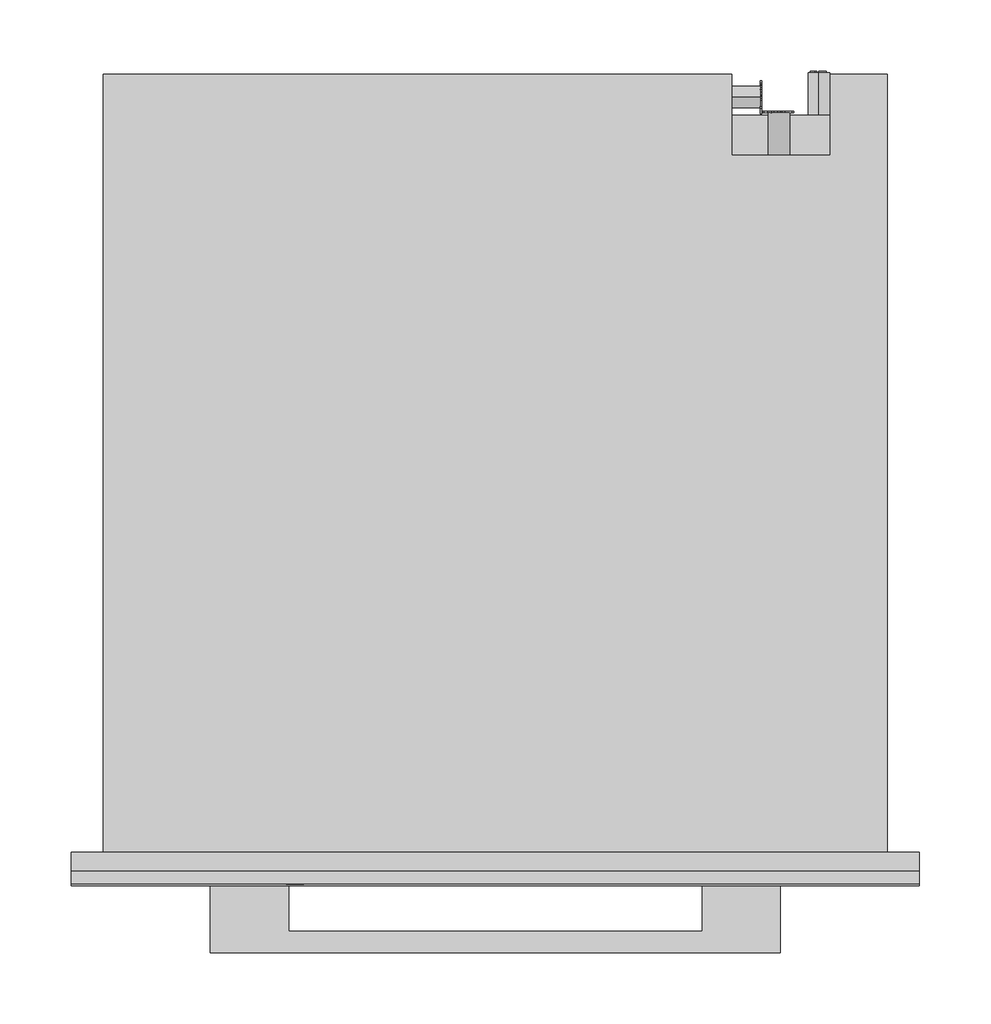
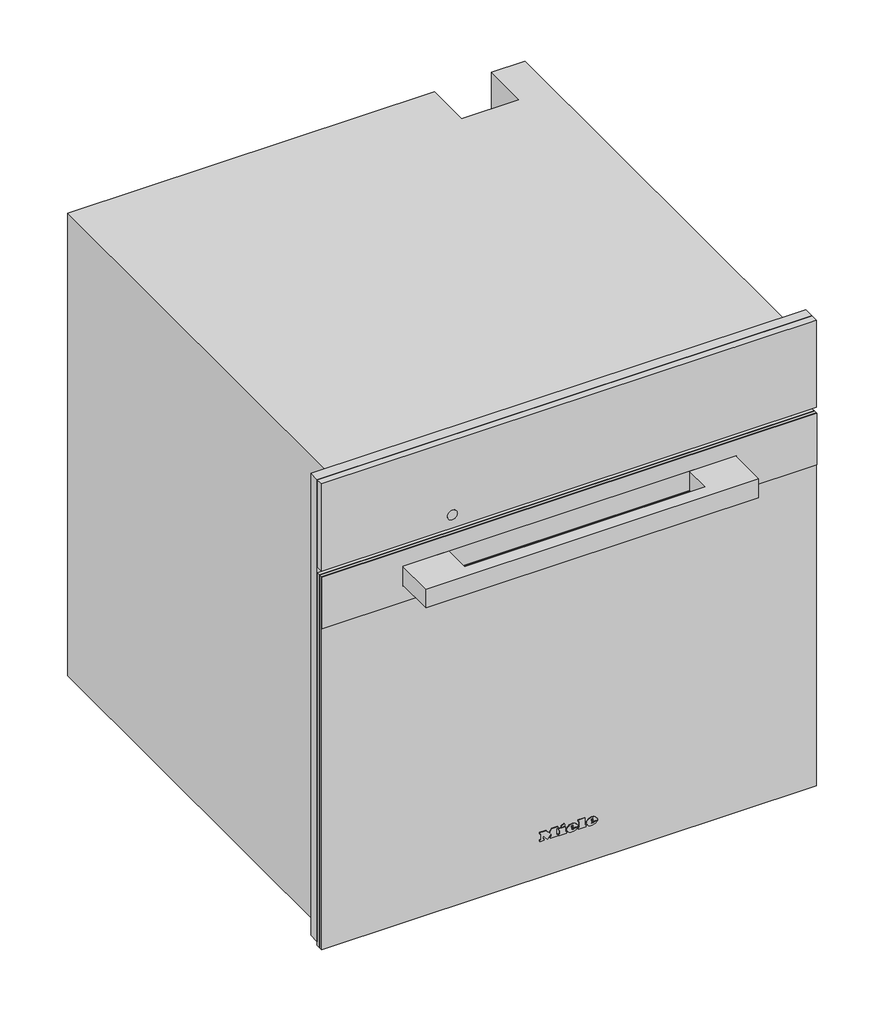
# Not in any storey: 1 proxy.
"""IFC4 building model written with IfcOpenShell, lengths in millimetres."""

import ifcopenshell
import ifcopenshell.guid

model = None  # the IFC model being written
_history = None  # IfcOwnerHistory: only IFC2X3 demands one
_inside = {}  # id of a spatial element -> (the spatial element, [elements in it])
_under = {}  # id of a project, library or spatial element -> (it, [spatial elements below it])
_declared = {}  # id of a project -> (the project, [libraries it declares])
_typed = {}  # id of a type object -> (the type object, [elements of that type])
_made_of = {}  # id of a material, layer set ... -> (it, [elements and type objects made of it])


def new_model(schema):
    """Start an empty IFC model of exactly this schema.

    Asked for "IFC4X3", IfcOpenShell would pick the latest addendum, in which some entities
    have other attributes; the version numbers below select the first issue.
    IFC2X3 requires an IfcOwnerHistory on every rooted entity: one is made here for all.
    """
    global model, _history
    if schema == "IFC4X3":
        model = ifcopenshell.file(schema_version=(4, 3, 0, 0))
    else:
        model = ifcopenshell.file(schema=schema)
    _inside.clear()
    _under.clear()
    _declared.clear()
    _typed.clear()
    _made_of.clear()
    _history = None
    if model.schema == "IFC2X3":
        org = make("IfcOrganization", Name="unknown")
        user = make(
            "IfcPersonAndOrganization",
            ThePerson=make("IfcPerson", FamilyName="unknown"),
            TheOrganization=org,
        )
        app = make(
            "IfcApplication",
            ApplicationDeveloper=org,
            Version="unknown",
            ApplicationFullName="unknown",
            ApplicationIdentifier="unknown",
        )
        _history = make(
            "IfcOwnerHistory",
            OwningUser=user,
            OwningApplication=app,
            ChangeAction="ADDED",
            CreationDate=0,
        )
    return model


def make(cls, **values):
    """One entity of the class cls with the attributes given. An attribute that is None is left unset."""
    return model.create_entity(
        cls, **{name: value for name, value in values.items() if value is not None}
    )


def rooted(cls, **values):
    """An entity with a GlobalId (a new one), such as an element, a storey or a relation."""
    return make(cls, GlobalId=ifcopenshell.guid.new(), OwnerHistory=_history, **values)


def si_unit(unit_type, name, prefix=None):
    """IfcSIUnit, for example si_unit("LENGTHUNIT", "METRE", prefix="MILLI")."""
    return make("IfcSIUnit", UnitType=unit_type, Prefix=prefix, Name=name)


def assignment(units):
    """IfcUnitAssignment: the units of a project."""
    return None if units is None else make("IfcUnitAssignment", Units=units)


def point(xyz):
    """IfcCartesianPoint."""
    return None if xyz is None else make("IfcCartesianPoint", Coordinates=xyz)


def direction(xyz):
    """IfcDirection."""
    return None if xyz is None else make("IfcDirection", DirectionRatios=xyz)


def frame(location, z_axis=None, x_axis=None):
    """IfcAxis2Placement3D, a coordinate frame: its origin and axes. An axis left out is left unset."""
    return make(
        "IfcAxis2Placement3D",
        Location=point(location),
        Axis=direction(z_axis),
        RefDirection=direction(x_axis),
    )


def frame_2d(location, x_axis=None):
    """IfcAxis2Placement2D, a coordinate frame in the plane: its origin and x axis."""
    return make(
        "IfcAxis2Placement2D", Location=point(location), RefDirection=direction(x_axis)
    )


def origin():
    """The frame at (0, 0, 0) with its axes left unset."""
    return frame((0.0, 0.0, 0.0))


def place(relative_to, where):
    """IfcLocalPlacement: puts the frame where relative to a parent placement (None: the world)."""
    return make(
        "IfcLocalPlacement", PlacementRelTo=relative_to, RelativePlacement=where
    )


def context(
    kind, dimensions, precision=None, world=None, true_north=None, identifier=None
):
    """IfcGeometricRepresentationContext, for example the 3D "Model" context."""
    return make(
        "IfcGeometricRepresentationContext",
        ContextIdentifier=identifier,
        ContextType=kind,
        CoordinateSpaceDimension=dimensions,
        Precision=precision,
        WorldCoordinateSystem=world,
        TrueNorth=true_north,
    )


def project(units=None, contexts=None):
    """IfcProject with its units and contexts."""
    return rooted(
        "IfcProject",
        Name="project",
        RepresentationContexts=contexts,
        UnitsInContext=assignment(units),
    )


def spatial(cls, under=None, at=None, **own):
    """A site, building, storey or space (cls), placed at a placement, below another one or the project."""
    s = rooted(cls, ObjectPlacement=at, **own)
    if under is not None:
        _under.setdefault(under.id(), (under, []))[1].append(s)
    return s


def polyline(points):
    """IfcPolyline through the points."""
    return make("IfcPolyline", Points=[point(p) for p in points])


def circle_curve(where, radius):
    """IfcCircle in the frame where."""
    return make("IfcCircle", Position=where, Radius=radius)


def ellipse_curve(where, semi_axis1, semi_axis2):
    """IfcEllipse in the frame where."""
    return make(
        "IfcEllipse", Position=where, SemiAxis1=semi_axis1, SemiAxis2=semi_axis2
    )


def trimmed(basis, trim1, trim2, sense, master):
    """IfcTrimmedCurve: the piece of a basis curve between two trims."""
    return make(
        "IfcTrimmedCurve",
        BasisCurve=basis,
        Trim1=trim1,
        Trim2=trim2,
        SenseAgreement=sense,
        MasterRepresentation=master,
    )


def segment(curve, same_sense, transition):
    """IfcCompositeCurveSegment."""
    return make(
        "IfcCompositeCurveSegment",
        Transition=transition,
        SameSense=same_sense,
        ParentCurve=curve,
    )


def composite_curve(segments, self_intersect=None):
    """IfcCompositeCurve: segments joined end to end."""
    return make("IfcCompositeCurve", Segments=segments, SelfIntersect=self_intersect)


def outline(outer, holes=None, kind="AREA"):
    """IfcArbitraryClosedProfileDef: a profile drawn as a closed curve; with holes, ...WithVoids."""
    if holes is None:
        return make("IfcArbitraryClosedProfileDef", ProfileType=kind, OuterCurve=outer)
    return make(
        "IfcArbitraryProfileDefWithVoids",
        ProfileType=kind,
        OuterCurve=outer,
        InnerCurves=holes,
    )


def extrude(swept, where, along, depth):
    """IfcExtrudedAreaSolid: the profile swept, set in the frame where, extruded along a direction by depth."""
    return make(
        "IfcExtrudedAreaSolid",
        SweptArea=swept,
        Position=where,
        ExtrudedDirection=direction(along),
        Depth=depth,
    )


def faces_of(points, faces, orient=None, outer=None):
    """IfcFace entities. A face is a list of loops; a loop is a list of indices into points, from 0.

    orient and outer hold one flag for each loop. By default every Orientation is true, the
    first loop of a face is its IfcFaceOuterBound and the others are IfcFaceBound.
    """
    made = []
    for i, loops in enumerate(faces):
        bounds = []
        for j, loop in enumerate(loops):
            is_outer = j == 0 if outer is None else outer[i][j]
            bounds.append(
                make(
                    "IfcFaceOuterBound" if is_outer else "IfcFaceBound",
                    Bound=make("IfcPolyLoop", Polygon=[points[k] for k in loop]),
                    Orientation=True if orient is None else orient[i][j],
                )
            )
        made.append(make("IfcFace", Bounds=bounds))
    return made


def faceted_brep(points, faces, orient=None, outer=None, voids=None):
    """IfcFacetedBrep: a solid bounded by flat faces; with voids (closed shells), ...WithVoids."""
    shared = [point(p) for p in points]
    hull = make("IfcClosedShell", CfsFaces=faces_of(shared, faces, orient, outer))
    if voids is None:
        return make("IfcFacetedBrep", Outer=hull)
    return make(
        "IfcFacetedBrepWithVoids",
        Outer=hull,
        Voids=[
            make(cls, CfsFaces=faces_of(shared, fs, o, b)) for cls, fs, o, b in voids
        ],
    )


def shape(context_of_items, identifier, shape_type, items):
    """IfcShapeRepresentation: the items that make up one representation, for example the "Body"."""
    return make(
        "IfcShapeRepresentation",
        ContextOfItems=context_of_items,
        RepresentationIdentifier=identifier,
        RepresentationType=shape_type,
        Items=items,
    )


def source(mapping_origin, context_of_items, identifier, shape_type, items):
    """IfcRepresentationMap: a shape defined once, which mapped items show again and again."""
    return make(
        "IfcRepresentationMap",
        MappingOrigin=mapping_origin,
        MappedRepresentation=shape(context_of_items, identifier, shape_type, items),
    )


def transform(
    local_origin,
    x_axis=None,
    y_axis=None,
    z_axis=None,
    scale=None,
    scale2=None,
    scale3=None,
    uniform=True,
):
    """IfcCartesianTransformationOperator3D, or its non-uniform kind. x_axis, y_axis, z_axis: its Axis1, 2, 3."""
    if uniform:
        return make(
            "IfcCartesianTransformationOperator3D",
            Axis1=direction(x_axis),
            Axis2=direction(y_axis),
            LocalOrigin=point(local_origin),
            Scale=scale,
            Axis3=direction(z_axis),
        )
    return make(
        "IfcCartesianTransformationOperator3DnonUniform",
        Axis1=direction(x_axis),
        Axis2=direction(y_axis),
        LocalOrigin=point(local_origin),
        Scale=scale,
        Axis3=direction(z_axis),
        Scale2=scale2,
        Scale3=scale3,
    )


def mapped(mapping_source, mapping_target):
    """IfcMappedItem: shows the shape of a source again, moved by a transform."""
    return make(
        "IfcMappedItem", MappingSource=mapping_source, MappingTarget=mapping_target
    )


def made_of(thing, what):
    """Note that an element or type object is made of a material, layer set ...; save() writes the relation."""
    if what is not None:
        _made_of.setdefault(what.id(), (what, []))[1].append(thing)
    return thing


def element(
    cls,
    number,
    at=None,
    inside=None,
    cuts=None,
    type_object=None,
    material=None,
    context=None,
    identifier="Body",
    shape_type=None,
    held_by="IfcProductDefinitionShape",
    body=None,
    shapes=None,
    **own,
):
    """One element of the class cls, such as IfcWall. Its Tag is "e" and its number.

    at: its placement. inside: the storey or other place that contains it. cuts: it is an
    opening in that element (IfcRelVoidsElement). A single representation is given by context,
    identifier, shape_type and body (its items); several are given by shapes. held_by: the class
    of the entity that holds the representations. save() writes the other relations.
    """
    e = rooted(cls, Tag="e%d" % number, ObjectPlacement=at, **own)
    if body is not None:
        shapes = [shape(context, identifier, shape_type, body)]
    if shapes is not None:
        e.Representation = make(held_by, Representations=shapes)
    if inside is not None:
        _inside.setdefault(inside.id(), (inside, []))[1].append(e)
    if cuts is not None:
        rooted(
            "IfcRelVoidsElement", RelatingBuildingElement=cuts, RelatedOpeningElement=e
        )
    if type_object is not None:
        _typed.setdefault(type_object.id(), (type_object, []))[1].append(e)
    return made_of(e, material)


def aggregate(whole, parts):
    """IfcRelAggregates: a whole, such as a stair, and the parts it consists of."""
    return rooted("IfcRelAggregates", RelatingObject=whole, RelatedObjects=parts)


def save(model, path):
    """Write the relations noted so far, then the file.

    IfcRelAggregates (storeys below a building ...), IfcRelContainedInSpatialStructure (elements
    in a storey), IfcRelDefinesByType, IfcRelAssociatesMaterial and IfcRelDeclares: one each for
    every whole, place, type object, material and project.
    """
    for whole, parts in _under.values():
        aggregate(whole, parts)
    for where, things in _inside.values():
        rooted(
            "IfcRelContainedInSpatialStructure",
            RelatedElements=things,
            RelatingStructure=where,
        )
    for kind, things in _typed.values():
        rooted("IfcRelDefinesByType", RelatedObjects=things, RelatingType=kind)
    for what, things in _made_of.values():
        rooted("IfcRelAssociatesMaterial", RelatedObjects=things, RelatingMaterial=what)
    for by, libraries in _declared.values():
        rooted("IfcRelDeclares", RelatingContext=by, RelatedDefinitions=libraries)
    model.write(path)


def plane_surface(at):
    """IfcPlane: the flat surface through the origin of the frame at, square to its z axis."""
    return make("IfcPlane", Position=at)


def cylinder_surface(at, radius):
    """IfcCylindricalSurface: all points at the distance radius from the z axis of the frame at."""
    return make("IfcCylindricalSurface", Position=at, Radius=radius)


def revolved_surface(curve, axis_point, axis_direction):
    """IfcSurfaceOfRevolution: the curve turned about the line through axis_point along axis_direction."""
    return make(
        "IfcSurfaceOfRevolution",
        SweptCurve=make("IfcArbitraryOpenProfileDef", ProfileType="CURVE", Curve=curve),
        AxisPosition=make("IfcAxis1Placement", Location=point(axis_point), Axis=direction(axis_direction)),
    )


def extruded_surface(curve, direction_of_extrusion, depth):
    """IfcSurfaceOfLinearExtrusion: the curve pushed along a direction by depth."""
    return make(
        "IfcSurfaceOfLinearExtrusion",
        SweptCurve=make("IfcArbitraryOpenProfileDef", ProfileType="CURVE", Curve=curve),
        ExtrudedDirection=direction(direction_of_extrusion),
        Depth=depth,
    )


def advanced_brep(points, edges, surfaces, faces):
    """IfcAdvancedBrep: a solid bounded by faces that lie on surfaces and meet in shared edges.

    An edge is (start, end): straight between two places in points (the first is 0);
    or (start, end, curve); or (start, end, curve, False) where it runs against its curve.
    A face is (place in surfaces, loops), or (place, loops, False) where it looks against
    its surface's normal. A loop lists edges by number (the first is 1), with a minus sign
    where the edge is run from its end to its start. The first loop is the outer one.
    """
    corners = [point(p) for p in points]
    vertices = [make("IfcVertexPoint", VertexGeometry=c) for c in corners]
    made = []
    for start, end, *more in edges:
        made.append(
            make(
                "IfcEdgeCurve",
                EdgeStart=vertices[start],
                EdgeEnd=vertices[end],
                EdgeGeometry=more[0] if more else make("IfcPolyline", Points=[corners[start], corners[end]]),
                SameSense=more[1] if len(more) > 1 else True,
            )
        )
    hull = []
    for where, loops, *sense in faces:
        bounds = []
        for j, loop in enumerate(loops):
            ring = [make("IfcOrientedEdge", EdgeElement=made[abs(k) - 1], Orientation=k > 0) for k in loop]
            bounds.append(
                make(
                    "IfcFaceOuterBound" if j == 0 else "IfcFaceBound",
                    Bound=make("IfcEdgeLoop", EdgeList=ring),
                    Orientation=True,
                )
            )
        hull.append(make("IfcAdvancedFace", Bounds=bounds, FaceSurface=surfaces[where], SameSense=sense[0] if sense else True))
    return make("IfcAdvancedBrep", Outer=make("IfcClosedShell", CfsFaces=hull))


def specialty_equipment_527323cb(model_context):
    return source(origin(), model_context, "Body", "SolidModel", [
        extrude(outline(polyline([(596.0, 297.5), (596.0, -297.5), (9.0, -297.5), (9.0, 297.5), (596.0, 297.5)]), holes=[polyline([(485.0, -272.5), (485.0, 272.5), (27.0, 272.5), (27.0, -272.5), (485.0, -272.5)])]), frame((0.0, -13.0, 0.0), z_axis=(0.0, 1.0, 0.0), x_axis=(0.0, 0.0, 1.0)), (0.0, 0.0, 1.0), 13.0),
        extrude(outline(polyline([(523.0, 196.9217896), (523.0, 198.4267862), (533.0435673, 201.1942402), (533.0435673, 199.9014806), (524.4295103, 197.7797951), (533.0470645, 195.3087512), (533.0470645, 193.4373937), (524.4121052, 190.9191482), (533.0472266, 188.8443938), (533.0472266, 187.5376524), (523.0, 190.2769667), (523.0, 191.6257455), (531.8347238, 194.3884733), (523.0, 196.9217896)])), frame((0.0, 519.0, 0.0), z_axis=(0.0, 1.0, 0.0), x_axis=(0.0, 0.0, 1.0)), (0.0, 0.0, 1.0), 1.0),
        extrude(outline(polyline([(533.0468463, 209.521488), (533.0468463, 208.2566067), (528.129594, 208.2566067), (533.0474898, 203.1074328), (533.0474898, 201.3597489), (528.9313111, 205.6695027), (523.0, 201.1858157), (523.0, 202.7358731), (528.0700777, 206.5685235), (526.4282746, 208.2823622), (523.0, 208.2823622), (523.0, 209.521488), (533.0468463, 209.521488)])), frame((0.0, 519.0, 0.0), z_axis=(0.0, 1.0, 0.0), x_axis=(0.0, 0.0, 1.0)), (0.0, 0.0, 1.0), 1.0),
        extrude(outline(polyline([(518.3136153, 20.0), (522.323529, 30.045631), (523.3928394, 30.045631), (527.4027531, 20.0), (526.0759254, 20.0), (524.925681, 23.1392597), (520.7882348, 23.1392597), (519.640443, 20.0), (518.3136153, 20.0)]), holes=[polyline([(521.2493136, 24.3949636), (524.4670548, 24.3949636), (523.5620651, 26.864678), (522.8581842, 28.7899271), (522.2327848, 27.0805021), (521.2493136, 24.3949636)])]), frame((186.0, 0.0, 0.0), z_axis=(1.0, 0.0, 0.0), x_axis=(0.0, 1.0, 0.0)), (0.0, 0.0, 1.0), 1.0),
        extrude(outline(polyline([(530.5420128, 20.0), (527.8025182, 30.045631), (529.0974628, 30.045631), (530.6867131, 23.4433755), (531.1772224, 21.4053092), (531.7020674, 23.207931), (533.6935352, 30.045631), (535.5599232, 30.045631), (537.0069257, 25.0890343), (538.0835937, 21.4053092), (538.5593878, 23.3845144), (540.1633533, 30.045631), (541.4582979, 30.045631), (538.7163507, 20.0), (537.3748077, 20.0), (534.9664069, 27.7500474), (534.630408, 28.8316204), (534.2527159, 27.5293182), (532.0576866, 20.0), (530.5420128, 20.0)])), frame((186.0, 0.0, 0.0), z_axis=(1.0, 0.0, 0.0), x_axis=(0.0, 1.0, 0.0)), (0.0, 0.0, 1.0), 1.0),
        advanced_brep(
        [(227.0, 547.0, 396.5), (227.0, 547.0, 381.5), (221.4098301, 547.0, 384.0), (225.5, 547.0, 384.0), (225.5, 547.0, 394.0), (224.4955303, 547.0, 394.0), (224.4955303, 547.0, 385.0), (221.0315043, 547.0, 385.0), (221.0315043, 547.0, 384.4582978), (232.0, 547.0, 384.0), (232.0, 547.0, 394.0), (227.0, 547.0, 394.0), (227.0, 547.0, 393.0), (231.0, 547.0, 393.0), (231.0, 547.0, 389.5), (228.0, 547.0, 389.5), (228.0, 547.0, 388.5), (231.0, 547.0, 388.5), (231.0, 547.0, 385.0), (227.0, 547.0, 385.0), (227.0, 547.0, 384.0), (227.0, 517.0, 381.5), (227.0, 517.0, 396.5), (232.0, 548.0, 394.0), (232.0, 548.0, 384.0), (227.0, 548.0, 384.0), (227.0, 548.0, 385.0), (231.0, 548.0, 385.0), (231.0, 548.0, 388.5), (228.0, 548.0, 388.5), (228.0, 548.0, 389.5), (231.0, 548.0, 389.5), (231.0, 548.0, 393.0), (227.0, 548.0, 393.0), (227.0, 548.0, 394.0), (225.5, 548.0, 384.0), (221.0315043, 548.0, 384.0), (221.0315043, 548.0, 385.0), (224.4955303, 548.0, 385.0), (224.4955303, 548.0, 394.0), (225.5, 548.0, 394.0), (221.0315043, 547.0, 384.0)],
        [
            (0, 1, circle_curve(frame((227.0, 547.0, 389.0), z_axis=(0.0, 1.0, 0.0), x_axis=(0.0, 0.0, 1.0)), 7.5)),
            (1, 2, circle_curve(frame((227.0, 547.0, 389.0), z_axis=(0.0, 1.0, 0.0), x_axis=(0.0, 0.0, 1.0)), 7.5)),
            (2, 3),
            (3, 4),
            (4, 5),
            (5, 6),
            (6, 7),
            (7, 8),
            (8, 0, circle_curve(frame((227.0, 547.0, 389.0), z_axis=(0.0, 1.0, 0.0), x_axis=(0.0, 0.0, 1.0)), 7.5)),
            (9, 10),
            (10, 11),
            (11, 12),
            (12, 13),
            (13, 14),
            (14, 15),
            (15, 16),
            (16, 17),
            (17, 18),
            (18, 19),
            (19, 20),
            (20, 9),
            (21, 22, circle_curve(frame((227.0, 517.0, 389.0), z_axis=(0.0, -1.0, 0.0), x_axis=(0.0, 0.0, 1.0)), 7.5)),
            (22, 21, circle_curve(frame((227.0, 517.0, 389.0), z_axis=(0.0, -1.0, 0.0), x_axis=(0.0, 0.0, 1.0)), 7.5)),
            (0, 22),
            (21, 1),
            (8, 2, circle_curve(frame((227.0, 547.0, 389.0), z_axis=(0.0, -1.0, 0.0), x_axis=(0.0, 0.0, 1.0)), 7.5)),
            (23, 24),
            (24, 25),
            (25, 26),
            (26, 27),
            (27, 28),
            (28, 29),
            (29, 30),
            (30, 31),
            (31, 32),
            (32, 33),
            (33, 34),
            (34, 23),
            (35, 36),
            (36, 37),
            (37, 38),
            (38, 39),
            (39, 40),
            (40, 35),
            (8, 41),
            (41, 2),
            (23, 10),
            (9, 24),
            (20, 25),
            (19, 26),
            (18, 27),
            (17, 28),
            (16, 29),
            (15, 30),
            (14, 31),
            (13, 32),
            (12, 33),
            (11, 34),
            (35, 3),
            (41, 36),
            (7, 37),
            (6, 38),
            (5, 39),
            (4, 40),
        ],
        [
            plane_surface(frame((227.0, 547.0, 396.5), z_axis=(0.0, 1.0, 0.0), x_axis=(1.0, 0.0, 0.0))),
            plane_surface(frame((227.0, 517.0, 396.5), z_axis=(0.0, -1.0, 0.0), x_axis=(-1.0, 0.0, 0.0))),
            cylinder_surface(frame((227.0, 547.0, 389.0), z_axis=(0.0, -1.0, 0.0), x_axis=(0.0, 0.0, 1.0)), 7.5),
            plane_surface(frame((232.0, 548.0, 394.0), z_axis=(0.0, 1.0, 0.0), x_axis=(0.0, 0.0, -1.0))),
            plane_surface(frame((232.0, 547.0, 394.0), z_axis=(0.0, -1.0, 0.0), x_axis=(0.0, 0.0, 1.0))),
            plane_surface(frame((232.0, 548.0, 394.0), z_axis=(1.0, 0.0, 0.0), x_axis=(0.0, -1.0, 0.0))),
            plane_surface(frame((232.0, 548.0, 384.0), z_axis=(0.0, 0.0, -1.0), x_axis=(0.0, -1.0, 0.0))),
            plane_surface(frame((227.0, 548.0, 384.0), z_axis=(-1.0, 0.0, 0.0), x_axis=(0.0, -1.0, 0.0))),
            plane_surface(frame((227.0, 548.0, 385.0), z_axis=(0.0, 0.0, 1.0), x_axis=(0.0, -1.0, 0.0))),
            plane_surface(frame((231.0, 548.0, 385.0), z_axis=(-1.0, 0.0, 0.0), x_axis=(0.0, -1.0, 0.0))),
            plane_surface(frame((231.0, 548.0, 388.5), z_axis=(0.0, 0.0, -1.0), x_axis=(0.0, -1.0, 0.0))),
            plane_surface(frame((228.0, 548.0, 388.5), z_axis=(-1.0, 0.0, 0.0), x_axis=(0.0, -1.0, 0.0))),
            plane_surface(frame((228.0, 548.0, 389.5), z_axis=(0.0, 0.0, 1.0), x_axis=(0.0, -1.0, 0.0))),
            plane_surface(frame((231.0, 548.0, 389.5), z_axis=(-1.0, 0.0, 0.0), x_axis=(0.0, -1.0, 0.0))),
            plane_surface(frame((231.0, 548.0, 393.0), z_axis=(0.0, 0.0, -1.0), x_axis=(0.0, -1.0, 0.0))),
            plane_surface(frame((227.0, 548.0, 393.0), z_axis=(-1.0, 0.0, 0.0), x_axis=(0.0, -1.0, 0.0))),
            plane_surface(frame((227.0, 548.0, 394.0), z_axis=(0.0, 0.0, 1.0), x_axis=(0.0, -1.0, 0.0))),
            plane_surface(frame((225.5, 548.0, 384.0), z_axis=(0.0, 0.0, -1.0), x_axis=(0.0, -1.0, 0.0))),
            plane_surface(frame((221.0315043, 548.0, 384.0), z_axis=(-1.0, 0.0, 0.0), x_axis=(0.0, -1.0, 0.0))),
            plane_surface(frame((221.0315043, 548.0, 385.0), z_axis=(0.0, 0.0, 1.0), x_axis=(0.0, -1.0, 0.0))),
            plane_surface(frame((224.4955303, 548.0, 385.0), z_axis=(-1.0, 0.0, 0.0), x_axis=(0.0, -1.0, 0.0))),
            plane_surface(frame((224.4955303, 548.0, 394.0), z_axis=(0.0, 0.0, 1.0), x_axis=(0.0, -1.0, 0.0))),
            plane_surface(frame((225.5, 548.0, 394.0), z_axis=(1.0, 0.0, 0.0), x_axis=(0.0, -1.0, 0.0))),
        ],
        [
            (0, [[1, 2, 3, 4, 5, 6, 7, 8, 9], [10, 11, 12, 13, 14, 15, 16, 17, 18, 19, 20, 21]]),
            (1, [[22, 23]]),
            (2, [[-1, 24, -22, 25]]),
            (2, [[-23, -24, -9, 26, -2, -25]]),
            (3, [[27, 28, 29, 30, 31, 32, 33, 34, 35, 36, 37, 38]]),
            (3, [[39, 40, 41, 42, 43, 44]]),
            (4, [[45, 46, -26]]),
            (5, [[-27, 47, -10, 48]]),
            (6, [[-28, -48, -21, 49]]),
            (7, [[-29, -49, -20, 50]]),
            (8, [[-30, -50, -19, 51]]),
            (9, [[-31, -51, -18, 52]]),
            (10, [[-32, -52, -17, 53]]),
            (11, [[-33, -53, -16, 54]]),
            (12, [[-34, -54, -15, 55]]),
            (13, [[-35, -55, -14, 56]]),
            (14, [[-36, -56, -13, 57]]),
            (15, [[-37, -57, -12, 58]]),
            (16, [[-38, -58, -11, -47]]),
            (17, [[-39, 59, -3, -46, 60]]),
            (18, [[-40, -60, -45, -8, 61]]),
            (19, [[-41, -61, -7, 62]]),
            (20, [[-42, -62, -6, 63]]),
            (21, [[-43, -63, -5, 64]]),
            (22, [[-44, -64, -4, -59]]),
        ],
    ),
        extrude(outline(composite_curve([segment(trimmed(circle_curve(frame_2d((528.0, 199.0)), 7.5), [point((528.0, 206.5))], [point((528.0, 191.5))], False, "CARTESIAN"), True, "CONTINUOUS"), segment(trimmed(circle_curve(frame_2d((528.0, 199.0)), 7.5), [point((528.0, 191.5))], [point((528.0, 206.5))], False, "CARTESIAN"), True, "CONTINUOUS")], self_intersect=False)), frame((0.0, 489.0, 0.0), z_axis=(0.0, 1.0, 0.0), x_axis=(0.0, 0.0, 1.0)), (0.0, 0.0, 1.0), 30.0),
        extrude(outline(composite_curve([segment(trimmed(circle_curve(frame_2d((530.0, 25.0)), 7.5), [point((530.0, 17.5))], [point((530.0, 32.5))], False, "CARTESIAN"), True, "CONTINUOUS"), segment(trimmed(circle_curve(frame_2d((530.0, 25.0)), 7.5), [point((530.0, 32.5))], [point((530.0, 17.5))], False, "CARTESIAN"), True, "CONTINUOUS")], self_intersect=False)), frame((166.0, 0.0, 0.0), z_axis=(1.0, 0.0, 0.0), x_axis=(0.0, 1.0, 0.0)), (0.0, 0.0, 1.0), 20.0),
        faceted_brep([(-275.0, 546.0, 0.0), (-275.0, 546.0, 588.0), (166.0, 546.0, 588.0), (166.0, 546.0, 0.0), (235.0, 546.0, 588.0), (275.0, 546.0, 588.0), (275.0, 546.0, 478.0), (235.0, 546.0, 478.0), (275.0, 0.0, 588.0), (-275.0, 0.0, 588.0), (-275.0, 0.0, 0.0), (275.0, 0.0, 0.0), (-272.5, 0.0, 485.0), (272.5, 0.0, 485.0), (272.5, 0.0, 27.0), (-272.5, 0.0, 27.0), (235.0, 489.0, 588.0), (166.0, 489.0, 588.0), (166.0, 517.0, 0.0), (275.0, 517.0, 0.0), (275.0, 517.0, 478.0), (272.5, 17.0, 485.0), (-272.5, 17.0, 485.0), (-272.5, 17.0, 27.0), (272.5, 17.0, 27.0), (231.0, 17.0, 409.0), (231.0, 17.0, 61.0), (-231.0, 17.0, 61.0), (-231.0, 17.0, 409.0), (231.0, 411.0, 409.0), (-231.0, 411.0, 409.0), (-231.0, 411.0, 61.0), (231.0, 411.0, 61.0), (235.0, 489.0, 477.0), (166.0, 489.0, 477.0), (166.0, 517.0, 477.0), (235.0, 517.0, 477.0), (235.0, 517.0, 478.0)], [[[0, 1, 2, 3]], [[4, 5, 6, 7]], [[8, 9, 10, 11], [12, 13, 14, 15]], [[9, 8, 5, 4, 16, 17, 2, 1]], [[1, 0, 10, 9]], [[11, 10, 0, 3, 18, 19]], [[8, 11, 19, 20, 6, 5]], [[21, 22, 23, 24], [25, 26, 27, 28]], [[22, 21, 13, 12]], [[23, 22, 12, 15]], [[24, 23, 15, 14]], [[21, 24, 14, 13]], [[29, 30, 31, 32]], [[29, 32, 26, 25]], [[32, 31, 27, 26]], [[31, 30, 28, 27]], [[30, 29, 25, 28]], [[16, 33, 34, 17]], [[17, 34, 35, 18, 3, 2]], [[34, 33, 36, 35]], [[33, 16, 4, 7, 37, 36]], [[37, 20, 19, 18, 35, 36]], [[20, 37, 7, 6]]]),
        advanced_brep(
        [(26.2998, -23.0, 52.7018), (26.2998, -23.0, 53.8532), (33.9264, -23.0, 53.8532), (20.6568, -23.0, 53.8532), (23.7918, -23.0, 50.0), (33.7326, -23.0, 52.7018), (30.2898, -23.0, 52.7018), (27.5766, -23.0, 51.425), (26.2998, -23.0, 55.3124), (26.2998, -23.0, 56.555), (28.2492, -23.0, 56.555), (28.2492, -23.0, 55.3124), (26.2998, -22.0, 52.7018), (27.5766, -22.0, 51.425), (30.2898, -22.0, 52.7018), (33.7326, -22.0, 52.7018), (23.7918, -22.0, 50.0), (20.6568, -22.0, 53.8532), (33.9264, -22.0, 53.8532), (26.2998, -22.0, 53.8532), (26.2998, -22.0, 55.3124), (28.2492, -22.0, 55.3124), (28.2492, -22.0, 56.555), (26.2998, -22.0, 56.555)],
        [
            (0, 1),
            (1, 2),
            (2, 3, ellipse_curve(frame((27.2916, -23.0, 53.8532), z_axis=(0.0, -1.0, 0.0), x_axis=(-1.0, 0.0, 0.0)), 6.6348, 5.4834)),
            (3, 4, circle_curve(frame((25.0686622, -23.0, 54.2408), z_axis=(0.0, -1.0, 0.0), x_axis=(0.0, 0.0, -1.0)), 4.4288556)),
            (4, 5, circle_curve(frame((27.1587808, -23.0, 57.2504), z_axis=(0.0, -1.0, 0.0), x_axis=(0.0, 0.0, -1.0)), 7.9940516)),
            (5, 6),
            (6, 7, circle_curve(frame((28.1338588, -23.0, 53.762), z_axis=(0.0, 1.0, 0.0), x_axis=(0.0, 0.0, -1.0)), 2.4025208)),
            (7, 0, circle_curve(frame((27.5766, -23.0, 52.7018), z_axis=(0.0, 1.0, 0.0), x_axis=(0.0, 0.0, -1.0)), 1.2768)),
            (8, 9),
            (9, 10, circle_curve(frame((27.2745, -23.0, 56.555), z_axis=(0.0, 1.0, 0.0), x_axis=(0.0, 0.0, -1.0)), 0.9747)),
            (10, 11),
            (11, 8),
            (12, 13, circle_curve(frame((27.5766, -22.0, 52.7018), z_axis=(0.0, -1.0, 0.0), x_axis=(0.0, 0.0, -1.0)), 1.2768)),
            (13, 14, circle_curve(frame((28.1338588, -22.0, 53.762), z_axis=(0.0, -1.0, 0.0), x_axis=(0.0, 0.0, -1.0)), 2.4025208)),
            (14, 15),
            (15, 16, circle_curve(frame((27.1587808, -22.0, 57.2504), z_axis=(0.0, 1.0, 0.0), x_axis=(0.0, 0.0, -1.0)), 7.9940516)),
            (16, 17, circle_curve(frame((25.0686622, -22.0, 54.2408), z_axis=(0.0, 1.0, 0.0), x_axis=(0.0, 0.0, -1.0)), 4.4288556)),
            (17, 18, ellipse_curve(frame((27.2916, -22.0, 53.8532), z_axis=(0.0, 1.0, 0.0), x_axis=(-1.0, 0.0, 0.0)), 6.6348, 5.4834)),
            (18, 19),
            (19, 12),
            (20, 21),
            (21, 22),
            (22, 23, circle_curve(frame((27.2745, -22.0, 56.555), z_axis=(0.0, -1.0, 0.0), x_axis=(0.0, 0.0, -1.0)), 0.9747)),
            (23, 20),
            (0, 12),
            (19, 1),
            (18, 2),
            (5, 15),
            (14, 6),
            (17, 3),
            (13, 7),
            (16, 4),
            (8, 20),
            (23, 9),
            (22, 10),
            (21, 11),
        ],
        [
            plane_surface(frame((26.2998, -23.0, 53.8532), z_axis=(0.0, -1.0, 0.0), x_axis=(0.0, 0.0, 1.0))),
            plane_surface(frame((26.2998, -22.0, 53.8532), z_axis=(0.0, 1.0, 0.0), x_axis=(0.0, 0.0, -1.0))),
            plane_surface(frame((26.2998, -23.0, 52.7018), z_axis=(1.0, 0.0, 0.0), x_axis=(0.0, 1.0, 0.0))),
            plane_surface(frame((26.2998, -23.0, 53.8532), z_axis=(0.0, 0.0, -1.0), x_axis=(0.0, 1.0, 0.0))),
            plane_surface(frame((33.7326, -23.0, 52.7018), z_axis=(0.0, 0.0, 1.0), x_axis=(0.0, 1.0, 0.0))),
            extruded_surface(trimmed(ellipse_curve(frame((27.2916, -21.0, 53.8532), z_axis=(0.0, -1.0, 0.0), x_axis=(-1.0, 0.0, 0.0)), 6.6348, 5.4834), [point((33.9264, -21.0, 53.8532))], [point((20.6568, -21.0, 53.8532))], True, "CARTESIAN"), (0.0, -1.0, 0.0), 1.0),
            revolved_surface(polyline([(28.1338588, -22.0, 51.3594792), (28.1338588, -23.0, 51.3594792)]), (28.1338588, -22.0, 53.762), (0.0, 1.0, 0.0)),
            revolved_surface(polyline([(27.5766, -22.0, 51.425), (27.5766, -23.0, 51.425)]), (27.5766, -22.0, 52.7018), (0.0, 1.0, 0.0)),
            cylinder_surface(frame((25.0686622, -22.0, 54.2408), z_axis=(0.0, -1.0, 0.0), x_axis=(0.0, 0.0, -1.0)), 4.4288556),
            cylinder_surface(frame((27.1587808, -22.0, 57.2504), z_axis=(0.0, -1.0, 0.0), x_axis=(0.0, 0.0, -1.0)), 7.9940516),
            plane_surface(frame((26.2998, -23.0, 55.3124), z_axis=(1.0, 0.0, 0.0), x_axis=(0.0, 1.0, 0.0))),
            revolved_surface(polyline([(27.2745, -22.0, 55.5803), (27.2745, -23.0, 55.5803)]), (27.2745, -22.0, 56.555), (0.0, 1.0, 0.0)),
            plane_surface(frame((28.2492, -23.0, 56.555), z_axis=(-1.0, 0.0, 0.0), x_axis=(0.0, 1.0, 0.0))),
            plane_surface(frame((28.2492, -23.0, 55.3124), z_axis=(0.0, 0.0, 1.0), x_axis=(0.0, 1.0, 0.0))),
        ],
        [
            (0, [[1, 2, 3, 4, 5, 6, 7, 8], [9, 10, 11, 12]]),
            (1, [[13, 14, 15, 16, 17, 18, 19, 20], [21, 22, 23, 24]]),
            (2, [[-1, 25, -20, 26]]),
            (3, [[-2, -26, -19, 27]]),
            (4, [[-6, 28, -15, 29]]),
            (5, [[-3, -27, -18, 30]]),
            (6, [[-7, -29, -14, 31]]),
            (7, [[-8, -31, -13, -25]]),
            (8, [[-4, -30, -17, 32]]),
            (9, [[-5, -32, -16, -28]]),
            (10, [[-9, 33, -24, 34]]),
            (11, [[-10, -34, -23, 35]]),
            (12, [[-11, -35, -22, 36]]),
            (13, [[-12, -36, -21, -33]]),
        ],
    ),
        advanced_brep(
        [(2.508, -23.0, 52.7018), (2.508, -23.0, 53.8532), (10.1346, -23.0, 53.8532), (-3.135, -23.0, 53.8532), (0.0, -23.0, 50.0), (9.9408, -23.0, 52.7018), (6.498, -23.0, 52.7018), (3.7848, -23.0, 51.425), (2.508, -23.0, 55.3124), (2.508, -23.0, 56.555), (4.4574, -23.0, 56.555), (4.4574, -23.0, 55.3124), (2.508, -22.0, 52.7018), (3.7848, -22.0, 51.425), (6.498, -22.0, 52.7018), (9.9408, -22.0, 52.7018), (0.0, -22.0, 50.0), (-3.135, -22.0, 53.8532), (10.1346, -22.0, 53.8532), (2.508, -22.0, 53.8532), (2.508, -22.0, 55.3124), (4.4574, -22.0, 55.3124), (4.4574, -22.0, 56.555), (2.508, -22.0, 56.555)],
        [
            (0, 1),
            (1, 2),
            (2, 3, ellipse_curve(frame((3.4998, -23.0, 53.8532), z_axis=(0.0, -1.0, 0.0), x_axis=(-1.0, 0.0, 0.0)), 6.6348, 5.4834)),
            (3, 4, circle_curve(frame((1.2768622, -23.0, 54.2408), z_axis=(0.0, -1.0, 0.0), x_axis=(0.0, 0.0, -1.0)), 4.4288556)),
            (4, 5, circle_curve(frame((3.3669808, -23.0, 57.2504), z_axis=(0.0, -1.0, 0.0), x_axis=(0.0, 0.0, -1.0)), 7.9940516)),
            (5, 6),
            (6, 7, circle_curve(frame((4.3420588, -23.0, 53.762), z_axis=(0.0, 1.0, 0.0), x_axis=(0.0, 0.0, -1.0)), 2.4025208)),
            (7, 0, circle_curve(frame((3.7848, -23.0, 52.7018), z_axis=(0.0, 1.0, 0.0), x_axis=(0.0, 0.0, -1.0)), 1.2768)),
            (8, 9),
            (9, 10, circle_curve(frame((3.4827, -23.0, 56.555), z_axis=(0.0, 1.0, 0.0), x_axis=(0.0, 0.0, -1.0)), 0.9747)),
            (10, 11),
            (11, 8),
            (12, 13, circle_curve(frame((3.7848, -22.0, 52.7018), z_axis=(0.0, -1.0, 0.0), x_axis=(0.0, 0.0, -1.0)), 1.2768)),
            (13, 14, circle_curve(frame((4.3420588, -22.0, 53.762), z_axis=(0.0, -1.0, 0.0), x_axis=(0.0, 0.0, -1.0)), 2.4025208)),
            (14, 15),
            (15, 16, circle_curve(frame((3.3669808, -22.0, 57.2504), z_axis=(0.0, 1.0, 0.0), x_axis=(0.0, 0.0, -1.0)), 7.9940516)),
            (16, 17, circle_curve(frame((1.2768622, -22.0, 54.2408), z_axis=(0.0, 1.0, 0.0), x_axis=(0.0, 0.0, -1.0)), 4.4288556)),
            (17, 18, ellipse_curve(frame((3.4998, -22.0, 53.8532), z_axis=(0.0, 1.0, 0.0), x_axis=(-1.0, 0.0, 0.0)), 6.6348, 5.4834)),
            (18, 19),
            (19, 12),
            (20, 21),
            (21, 22),
            (22, 23, circle_curve(frame((3.4827, -22.0, 56.555), z_axis=(0.0, -1.0, 0.0), x_axis=(0.0, 0.0, -1.0)), 0.9747)),
            (23, 20),
            (0, 12),
            (19, 1),
            (18, 2),
            (5, 15),
            (14, 6),
            (17, 3),
            (13, 7),
            (16, 4),
            (8, 20),
            (23, 9),
            (22, 10),
            (21, 11),
        ],
        [
            plane_surface(frame((2.508, -23.0, 53.8532), z_axis=(0.0, -1.0, 0.0), x_axis=(0.0, 0.0, 1.0))),
            plane_surface(frame((2.508, -22.0, 53.8532), z_axis=(0.0, 1.0, 0.0), x_axis=(0.0, 0.0, -1.0))),
            plane_surface(frame((2.508, -23.0, 52.7018), z_axis=(1.0, 0.0, 0.0), x_axis=(0.0, 1.0, 0.0))),
            plane_surface(frame((2.508, -23.0, 53.8532), z_axis=(0.0, 0.0, -1.0), x_axis=(0.0, 1.0, 0.0))),
            plane_surface(frame((9.9408, -23.0, 52.7018), z_axis=(0.0, 0.0, 1.0), x_axis=(0.0, 1.0, 0.0))),
            extruded_surface(trimmed(ellipse_curve(frame((3.4998, -21.0, 53.8532), z_axis=(0.0, -1.0, 0.0), x_axis=(-1.0, 0.0, 0.0)), 6.6348, 5.4834), [point((10.1346, -21.0, 53.8532))], [point((-3.135, -21.0, 53.8532))], True, "CARTESIAN"), (0.0, -1.0, 0.0), 1.0),
            revolved_surface(polyline([(4.3420588, -22.0, 51.3594792), (4.3420588, -23.0, 51.3594792)]), (4.3420588, -22.0, 53.762), (0.0, 1.0, 0.0)),
            revolved_surface(polyline([(3.7848, -22.0, 51.425), (3.7848, -23.0, 51.425)]), (3.7848, -22.0, 52.7018), (0.0, 1.0, 0.0)),
            cylinder_surface(frame((1.2768622, -22.0, 54.2408), z_axis=(0.0, -1.0, 0.0), x_axis=(0.0, 0.0, -1.0)), 4.4288556),
            cylinder_surface(frame((3.3669808, -22.0, 57.2504), z_axis=(0.0, -1.0, 0.0), x_axis=(0.0, 0.0, -1.0)), 7.9940516),
            plane_surface(frame((2.508, -23.0, 55.3124), z_axis=(1.0, 0.0, 0.0), x_axis=(0.0, 1.0, 0.0))),
            revolved_surface(polyline([(3.4827, -22.0, 55.5803), (3.4827, -23.0, 55.5803)]), (3.4827, -22.0, 56.555), (0.0, 1.0, 0.0)),
            plane_surface(frame((4.4574, -23.0, 56.555), z_axis=(-1.0, 0.0, 0.0), x_axis=(0.0, 1.0, 0.0))),
            plane_surface(frame((4.4574, -23.0, 55.3124), z_axis=(0.0, 0.0, 1.0), x_axis=(0.0, 1.0, 0.0))),
        ],
        [
            (0, [[1, 2, 3, 4, 5, 6, 7, 8], [9, 10, 11, 12]]),
            (1, [[13, 14, 15, 16, 17, 18, 19, 20], [21, 22, 23, 24]]),
            (2, [[-1, 25, -20, 26]]),
            (3, [[-2, -26, -19, 27]]),
            (4, [[-6, 28, -15, 29]]),
            (5, [[-3, -27, -18, 30]]),
            (6, [[-7, -29, -14, 31]]),
            (7, [[-8, -31, -13, -25]]),
            (8, [[-4, -30, -17, 32]]),
            (9, [[-5, -32, -16, -28]]),
            (10, [[-9, 33, -24, 34]]),
            (11, [[-10, -34, -23, 35]]),
            (12, [[-11, -35, -22, 36]]),
            (13, [[-12, -36, -21, -33]]),
        ],
    ),
        extrude(outline(polyline([(60.7274, -9.9522), (58.8806, -9.0858), (60.6818, -5.2212), (62.5286, -6.0762), (60.7274, -9.9522)])), frame((0.0, -23.0, 0.0), z_axis=(0.0, 1.0, 0.0), x_axis=(0.0, 0.0, 1.0)), (0.0, 0.0, 1.0), 1.0),
        extrude(outline(polyline([(58.6298, -12.768), (56.5892, -12.768), (56.5892, -11.4114), (51.9152, -11.4114), (51.9152, -12.768), (50.0, -12.768), (50.0, -3.7734), (51.9152, -3.7734), (51.9152, -5.0958), (58.6298, -5.0958), (58.6298, -12.768)])), frame((0.0, -23.0, 0.0), z_axis=(0.0, 1.0, 0.0), x_axis=(0.0, 0.0, 1.0)), (0.0, 0.0, 1.0), 1.0),
        extrude(outline(polyline([(59.5418, 10.773), (59.5418, 12.141), (51.9152, 12.141), (51.9152, 10.773), (50.0, 10.773), (50.0, 20.0184), (51.9152, 20.0184), (51.9152, 18.6162), (61.4, 18.6162), (61.4, 10.773), (59.5418, 10.773)])), frame((0.0, -23.0, 0.0), z_axis=(0.0, 1.0, 0.0), x_axis=(0.0, 0.0, 1.0)), (0.0, 0.0, 1.0), 1.0),
        extrude(outline(polyline([(59.5418, -35.4882), (59.5418, -34.1088), (51.9152, -34.1088), (51.9152, -35.4882), (50.0, -35.4882), (50.0, -30.4722), (51.9152, -30.4722), (51.9152, -31.8402), (56.7429247, -31.8402), (50.0, -26.7444), (56.9402223, -21.6258), (51.9152, -21.6258), (51.9152, -23.028), (50.0, -23.028), (50.0, -13.9308), (51.9152, -13.9308), (51.9152, -15.3786), (59.5418, -15.3786), (59.5418, -13.9308), (61.4, -13.9308), (61.4, -20.8734), (57.125, -24.2022), (61.4, -27.5424), (61.4, -35.4882), (59.5418, -35.4882)])), frame((0.0, -23.0, 0.0), z_axis=(0.0, 1.0, 0.0), x_axis=(0.0, 0.0, 1.0)), (0.0, 0.0, 1.0), 1.0),
        extrude(outline(polyline([(297.5, -22.0), (-297.5, -22.0), (-297.5, -13.0), (297.5, -13.0), (297.5, -22.0)])), frame((0.0, 0.0, 485.0), z_axis=(0.0, 0.0, 1.0), x_axis=(1.0, 0.0, 0.0)), (0.0, 0.0, 1.0), 111.0),
        extrude(outline(composite_curve([segment(trimmed(circle_curve(frame_2d((502.0, -140.5745637)), 6.0), [point((502.0, -146.5745637))], [point((502.0, -134.5745637))], False, "CARTESIAN"), True, "CONTINUOUS"), segment(trimmed(circle_curve(frame_2d((502.0, -140.5745637)), 6.0), [point((502.0, -134.5745637))], [point((502.0, -146.5745637))], False, "CARTESIAN"), True, "CONTINUOUS")], self_intersect=False)), frame((0.0, -22.5, 0.0), z_axis=(0.0, 1.0, 0.0), x_axis=(0.0, 0.0, 1.0)), (0.0, 0.0, 1.0), 1.0),
        extrude(outline(polyline([(297.5, -18.0), (-297.5, -18.0), (-297.5, -13.0), (297.5, -13.0), (297.5, -18.0)])), frame((0.0, 0.0, 4.0), z_axis=(0.0, 0.0, 1.0), x_axis=(1.0, 0.0, 0.0)), (0.0, 0.0, 1.0), 474.0),
        extrude(outline(polyline([(-297.5, -18.0), (297.5, -18.0), (297.5, -22.0), (-297.5, -22.0), (-297.5, -18.0)])), frame((0.0, 0.0, 4.0), z_axis=(0.0, 0.0, 1.0), x_axis=(1.0, 0.0, 0.0)), (0.0, 0.0, 1.0), 474.0),
        extrude(outline(polyline([(-200.0, -70.3), (-200.0, -22.0), (-145.0, -22.0), (-145.0, -55.3), (145.0, -55.3), (145.0, -22.0), (200.0, -22.0), (200.0, -70.3), (-200.0, -70.3)])), frame((0.0, 0.0, 433.5), z_axis=(0.0, 0.0, 1.0), x_axis=(1.0, 0.0, 0.0)), (0.0, 0.0, 1.0), 24.0),
        extrude(outline(polyline([(478.0, 297.5), (478.0, -297.5), (413.0, -297.5), (413.0, 297.5), (478.0, 297.5)]), holes=[polyline([(458.0, -200.5), (458.0, 200.5), (433.0, 200.5), (433.0, -200.5), (458.0, -200.5)])]), frame((0.0, -23.3, 0.0), z_axis=(0.0, 1.0, 0.0), x_axis=(0.0, 0.0, 1.0)), (0.0, 0.0, 1.0), 1.3),
    ])


model = new_model("IFC4")

# Units and contexts
model_context = context("Model", 3, world=origin())
ifc_project = project(units=[si_unit("LENGTHUNIT", "METRE", prefix="MILLI")], contexts=[model_context])

# Site, building
site = spatial("IfcSite", under=ifc_project)
building = spatial("IfcBuilding", under=site)

# Proxy
placement = place(None, origin())
specialty_equipment_shape = specialty_equipment_527323cb(model_context)
element("IfcBuildingElementProxy", 1, Name="12108470_BNE_DGC7665HCPro_EDST-C : 23766549_BNE_12108470_DGC7665HCPro_EDST-C", ObjectType="12108470_BNE_DGC7665HCPro_EDST-C : 23766549_BNE_12108470_DGC7665HCPro_EDST-C", at=placement, inside=building, context=model_context, shape_type="MappedRepresentation", body=[
    mapped(specialty_equipment_shape, transform((0.0, 0.0, 0.0), x_axis=(1.0, 0.0, 0.0), y_axis=(0.0, 1.0, 0.0), z_axis=(0.0, 0.0, 1.0))),
])

save(model, "model.ifc")
